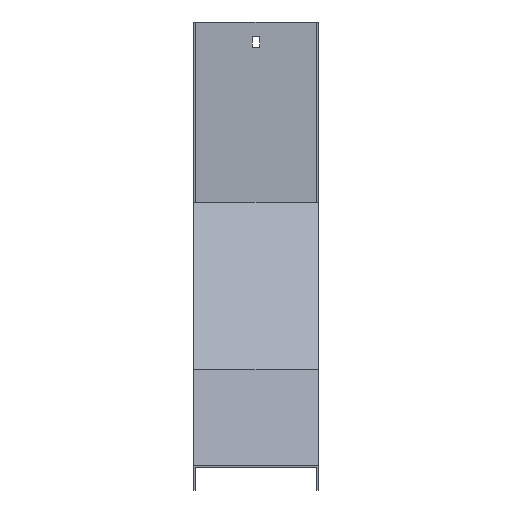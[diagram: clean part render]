
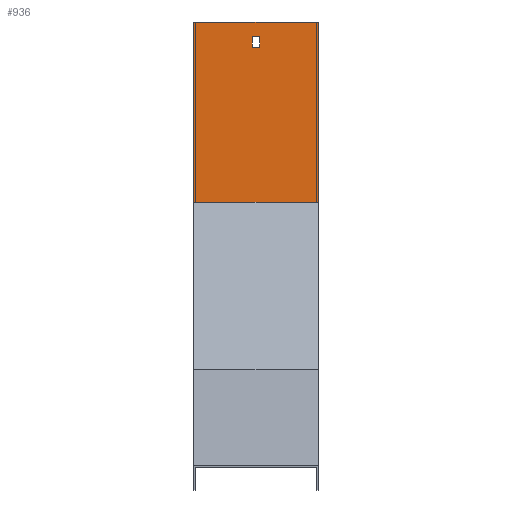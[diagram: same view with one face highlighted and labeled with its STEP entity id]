
A CAD part, top view. The second image highlights one B-rep face of the part: STEP entity #936.
In plain terms, the highlighted planar face has unit normal (0, 0, 1).
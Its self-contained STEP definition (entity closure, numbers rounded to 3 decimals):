
#2 = CARTESIAN_POINT ( 'NONE',  ( -3.25, 356.947, -368.947 ) ) ;
#8 = EDGE_CURVE ( 'NONE', #710, #29, #150, .T. ) ;
#12 = DIRECTION ( 'NONE',  ( 0., -1., 0. ) ) ;
#28 = DIRECTION ( 'NONE',  ( -1., 0., 0. ) ) ;
#29 = VERTEX_POINT ( 'NONE', #429 ) ;
#31 = DIRECTION ( 'NONE',  ( 0., -1., 0. ) ) ;
#33 = ORIENTED_EDGE ( 'NONE', *, *, #8, .F. ) ;
#40 = VECTOR ( 'NONE', #547, 1000. ) ;
#73 = DIRECTION ( 'NONE',  ( 0., 1., 0. ) ) ;
#95 = EDGE_CURVE ( 'NONE', #985, #794, #944, .T. ) ;
#114 = CARTESIAN_POINT ( 'NONE',  ( -3.25, 347.947, -368.947 ) ) ;
#125 = AXIS2_PLACEMENT_3D ( 'NONE', #171, #695, #12 ) ;
#133 = VERTEX_POINT ( 'NONE', #343 ) ;
#143 = ORIENTED_EDGE ( 'NONE', *, *, #95, .F. ) ;
#149 = ORIENTED_EDGE ( 'NONE', *, *, #836, .F. ) ;
#150 = LINE ( 'NONE', #833, #647 ) ;
#171 = CARTESIAN_POINT ( 'NONE',  ( 51.5, 219.247, -368.947 ) ) ;
#177 = FACE_OUTER_BOUND ( 'NONE', #291, .T. ) ;
#207 = ORIENTED_EDGE ( 'NONE', *, *, #958, .F. ) ;
#208 = CARTESIAN_POINT ( 'NONE',  ( -51.5, 219.247, -368.947 ) ) ;
#221 = ORIENTED_EDGE ( 'NONE', *, *, #304, .T. ) ;
#222 = CARTESIAN_POINT ( 'NONE',  ( 51.5, 219.247, -368.947 ) ) ;
#223 = ORIENTED_EDGE ( 'NONE', *, *, #572, .F. ) ;
#237 = VECTOR ( 'NONE', #73, 1000. ) ;
#246 = CARTESIAN_POINT ( 'NONE',  ( 3.25, 347.947, -368.947 ) ) ;
#257 = PLANE ( 'NONE',  #125 ) ;
#258 = DIRECTION ( 'NONE',  ( -1., 0., 0. ) ) ;
#266 = VECTOR ( 'NONE', #510, 1000. ) ;
#291 = EDGE_LOOP ( 'NONE', ( #223, #149, #221, #604 ) ) ;
#304 = EDGE_CURVE ( 'NONE', #434, #435, #599, .T. ) ;
#343 = CARTESIAN_POINT ( 'NONE',  ( -51.5, 219.247, -368.947 ) ) ;
#429 = CARTESIAN_POINT ( 'NONE',  ( 3.25, 356.947, -368.947 ) ) ;
#434 = VERTEX_POINT ( 'NONE', #927 ) ;
#435 = VERTEX_POINT ( 'NONE', #478 ) ;
#454 = DIRECTION ( 'NONE',  ( 0., 1., 0. ) ) ;
#455 = LINE ( 'NONE', #555, #681 ) ;
#475 = CARTESIAN_POINT ( 'NONE',  ( 51.5, 219.247, -368.947 ) ) ;
#478 = CARTESIAN_POINT ( 'NONE',  ( 51.5, 368.947, -368.947 ) ) ;
#482 = FACE_BOUND ( 'NONE', #536, .T. ) ;
#510 = DIRECTION ( 'NONE',  ( 0., 1., 0. ) ) ;
#536 = EDGE_LOOP ( 'NONE', ( #33, #207, #143, #646 ) ) ;
#547 = DIRECTION ( 'NONE',  ( 1., 0., 0. ) ) ;
#554 = CARTESIAN_POINT ( 'NONE',  ( -51.5, 368.947, -368.947 ) ) ;
#555 = CARTESIAN_POINT ( 'NONE',  ( 3.25, 356.947, -368.947 ) ) ;
#572 = EDGE_CURVE ( 'NONE', #133, #970, #888, .T. ) ;
#599 = LINE ( 'NONE', #222, #237 ) ;
#604 = ORIENTED_EDGE ( 'NONE', *, *, #811, .T. ) ;
#627 = LINE ( 'NONE', #638, #847 ) ;
#638 = CARTESIAN_POINT ( 'NONE',  ( 51.5, 368.947, -368.947 ) ) ;
#646 = ORIENTED_EDGE ( 'NONE', *, *, #718, .F. ) ;
#647 = VECTOR ( 'NONE', #454, 1000. ) ;
#674 = CARTESIAN_POINT ( 'NONE',  ( 3.25, 347.947, -368.947 ) ) ;
#681 = VECTOR ( 'NONE', #28, 1000. ) ;
#695 = DIRECTION ( 'NONE',  ( 0., 0., 1. ) ) ;
#698 = CARTESIAN_POINT ( 'NONE',  ( -3.25, 347.947, -368.947 ) ) ;
#710 = VERTEX_POINT ( 'NONE', #674 ) ;
#718 = EDGE_CURVE ( 'NONE', #29, #985, #455, .T. ) ;
#775 = DIRECTION ( 'NONE',  ( -1., 0., 0. ) ) ;
#794 = VERTEX_POINT ( 'NONE', #698 ) ;
#811 = EDGE_CURVE ( 'NONE', #435, #970, #627, .T. ) ;
#821 = VECTOR ( 'NONE', #31, 1000. ) ;
#833 = CARTESIAN_POINT ( 'NONE',  ( 3.25, 347.947, -368.947 ) ) ;
#836 = EDGE_CURVE ( 'NONE', #434, #133, #853, .T. ) ;
#847 = VECTOR ( 'NONE', #258, 1000. ) ;
#853 = LINE ( 'NONE', #475, #957 ) ;
#888 = LINE ( 'NONE', #208, #266 ) ;
#927 = CARTESIAN_POINT ( 'NONE',  ( 51.5, 219.247, -368.947 ) ) ;
#928 = LINE ( 'NONE', #246, #40 ) ;
#936 = ADVANCED_FACE ( 'NONE', ( #482, #177 ), #257, .T. ) ;
#944 = LINE ( 'NONE', #114, #821 ) ;
#957 = VECTOR ( 'NONE', #775, 1000. ) ;
#958 = EDGE_CURVE ( 'NONE', #794, #710, #928, .T. ) ;
#970 = VERTEX_POINT ( 'NONE', #554 ) ;
#985 = VERTEX_POINT ( 'NONE', #2 ) ;
